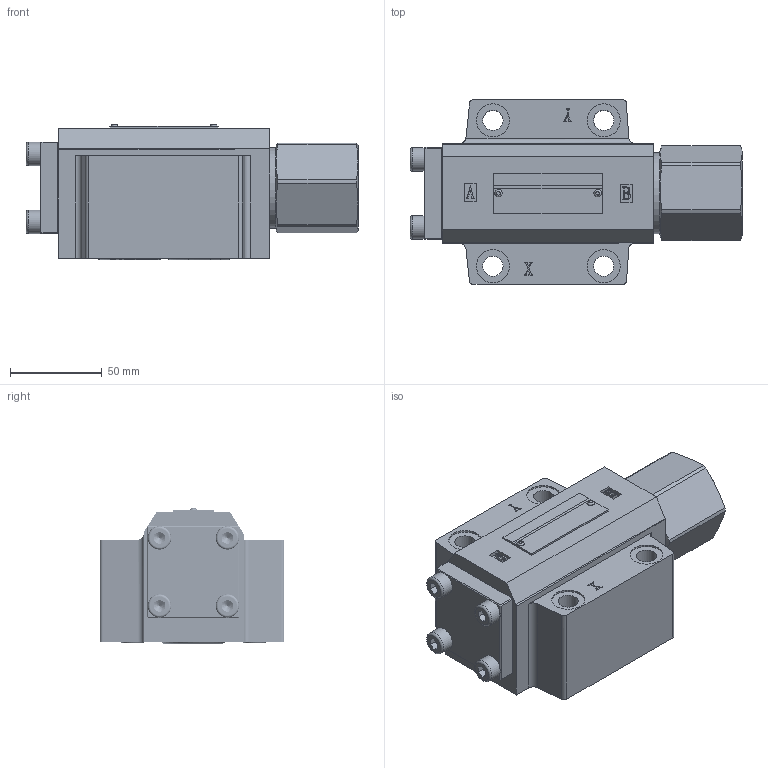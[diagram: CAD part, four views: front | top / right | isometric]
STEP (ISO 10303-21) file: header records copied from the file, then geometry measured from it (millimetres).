
FILE_DESCRIPTION(/* description */ (''),/* implementation_level */ '2;1');
FILE_NAME(/* name */ 'SVSL20P-3(4)-4XJ液控单向阀.prt.stp',/* time_stamp */ '2022-03-30T19:20:56+08:00',/* author */ (''),/* organization */ (''),/* preprocessor_version */ 'ST-DEVELOPER v16.7',/* originating_system */ 'SIEMENS PLM Software NX 12.0',/* authorisation */ '');
FILE_SCHEMA (('AUTOMOTIVE_DESIGN { 1 0 10303 214 3 1 1 1 }'));
Products named in the file (1): SVSL20P-3(4)-4XJ液控单向阀
Bounding box: 180.74 x 100.5 x 73.63 mm (x, y, z)
Volume: 795443.3 mm3; surface area: 102444.8 mm2
Topology: 14 solids, 28 shells, 562 faces, 1350 edges, 855 vertices
Faces by surface type: plane 250, cylinder 185, cone 38, extrusion 35, bspline 34, torus 20
Full cylindrical faces by diameter (mm): 1.8 x6, 6 x1, 6.7 x52, 9 x4, 11 x4, 12.2 x2, 12.73 x4, 18 x4, 34.8 x2, 36 x1, 38.491 x1, 44 x1
Entity records: 52693 total; most frequent: CARTESIAN_POINT 40815, ORIENTED_EDGE 2180, DIRECTION 1991, EDGE_CURVE 1090, VERTEX_POINT 739, AXIS2_PLACEMENT_3D 702, EDGE_LOOP 618, VECTOR 587
